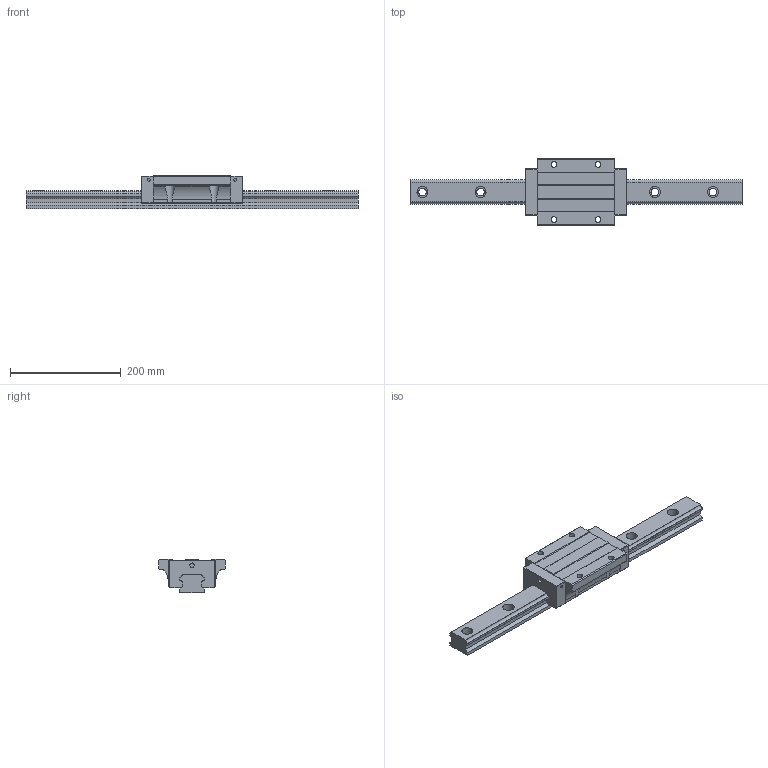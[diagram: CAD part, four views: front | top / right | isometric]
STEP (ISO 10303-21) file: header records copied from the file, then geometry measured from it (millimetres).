
FILE_DESCRIPTION (( 'STEP AP203' ), '1' );
FILE_NAME ('TRH45FE-ZN.STEP', '2024-05-14T08:35:57', ( '' ), ( '' ), 'SwSTEP 2.0', 'SolidWorks 2022', '' );
FILE_SCHEMA (( 'CONFIG_CONTROL_DESIGN' ));
Length unit declared in the file: millimetre
Products named in the file (1): TRH45FE-ZN
Bounding box: 600 x 120 x 60 mm (x, y, z)
Volume: 1401000 mm3; surface area: 185744.6 mm2
Topology: 2 solids, 2 shells, 214 faces, 582 edges, 380 vertices
Faces by surface type: cylinder 114, plane 96, sphere 4
Entity records: 7403 total; most frequent: CARTESIAN_POINT 1783, DIRECTION 1172, ORIENTED_EDGE 1156, EDGE_CURVE 578, AXIS2_PLACEMENT_3D 411, VERTEX_POINT 380, LINE 350, VECTOR 350
